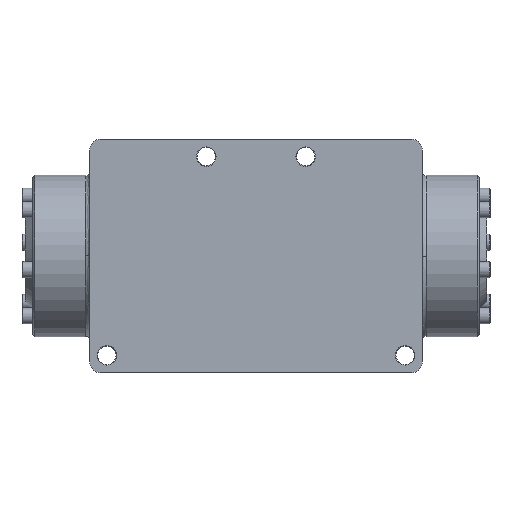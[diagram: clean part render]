
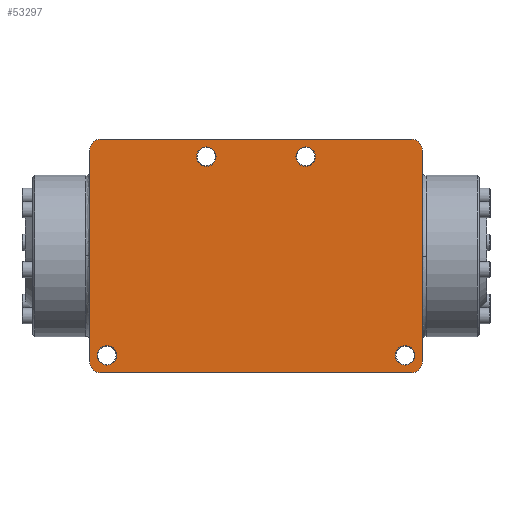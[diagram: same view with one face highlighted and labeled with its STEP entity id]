
A CAD part, front view. The second image highlights one B-rep face of the part: STEP entity #53297.
In plain terms, the highlighted planar face has unit normal (0, -1, 0).
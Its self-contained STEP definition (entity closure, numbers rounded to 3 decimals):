
#2228=FACE_BOUND('',#15693,.T.);
#2229=FACE_BOUND('',#15694,.T.);
#2230=FACE_BOUND('',#15695,.T.);
#2231=FACE_BOUND('',#15696,.T.);
#5134=LINE('',#94408,#8570);
#5135=LINE('',#94412,#8571);
#5136=LINE('',#94416,#8572);
#5137=LINE('',#94419,#8573);
#8570=VECTOR('',#69531,1.);
#8571=VECTOR('',#69534,1.);
#8572=VECTOR('',#69537,1.);
#8573=VECTOR('',#69540,1.);
#12365=FACE_OUTER_BOUND('',#15692,.T.);
#15692=EDGE_LOOP('',(#41442,#41443,#41444,#41445,#41446,#41447,#41448,#41449));
#15693=EDGE_LOOP('',(#41450,#41451));
#15694=EDGE_LOOP('',(#41452,#41453));
#15695=EDGE_LOOP('',(#41454,#41455));
#15696=EDGE_LOOP('',(#41456,#41457));
#18852=CIRCLE('',#58213,0.714);
#18853=CIRCLE('',#58214,0.714);
#18855=CIRCLE('',#58217,0.714);
#18856=CIRCLE('',#58218,0.714);
#18858=CIRCLE('',#58221,0.714);
#18859=CIRCLE('',#58222,0.714);
#18861=CIRCLE('',#58225,0.714);
#18862=CIRCLE('',#58226,0.714);
#18880=CIRCLE('',#58259,0.794);
#18881=CIRCLE('',#58260,0.794);
#18882=CIRCLE('',#58261,0.794);
#18883=CIRCLE('',#58262,0.794);
#22811=VERTEX_POINT('',#94312);
#22812=VERTEX_POINT('',#94313);
#22814=VERTEX_POINT('',#94320);
#22815=VERTEX_POINT('',#94321);
#22817=VERTEX_POINT('',#94328);
#22818=VERTEX_POINT('',#94329);
#22820=VERTEX_POINT('',#94336);
#22821=VERTEX_POINT('',#94337);
#22839=VERTEX_POINT('',#94404);
#22840=VERTEX_POINT('',#94405);
#22841=VERTEX_POINT('',#94407);
#22842=VERTEX_POINT('',#94409);
#22843=VERTEX_POINT('',#94411);
#22844=VERTEX_POINT('',#94413);
#22845=VERTEX_POINT('',#94415);
#22846=VERTEX_POINT('',#94417);
#29359=EDGE_CURVE('',#22811,#22812,#18852,.T.);
#29360=EDGE_CURVE('',#22812,#22811,#18853,.T.);
#29363=EDGE_CURVE('',#22814,#22815,#18855,.T.);
#29364=EDGE_CURVE('',#22815,#22814,#18856,.T.);
#29367=EDGE_CURVE('',#22817,#22818,#18858,.T.);
#29368=EDGE_CURVE('',#22818,#22817,#18859,.T.);
#29371=EDGE_CURVE('',#22820,#22821,#18861,.T.);
#29372=EDGE_CURVE('',#22821,#22820,#18862,.T.);
#29405=EDGE_CURVE('',#22839,#22840,#18880,.T.);
#29406=EDGE_CURVE('',#22840,#22841,#5134,.T.);
#29407=EDGE_CURVE('',#22841,#22842,#18881,.T.);
#29408=EDGE_CURVE('',#22842,#22843,#5135,.T.);
#29409=EDGE_CURVE('',#22843,#22844,#18882,.T.);
#29410=EDGE_CURVE('',#22844,#22845,#5136,.T.);
#29411=EDGE_CURVE('',#22845,#22846,#18883,.T.);
#29412=EDGE_CURVE('',#22846,#22839,#5137,.T.);
#41442=ORIENTED_EDGE('',*,*,#29405,.T.);
#41443=ORIENTED_EDGE('',*,*,#29406,.T.);
#41444=ORIENTED_EDGE('',*,*,#29407,.T.);
#41445=ORIENTED_EDGE('',*,*,#29408,.T.);
#41446=ORIENTED_EDGE('',*,*,#29409,.T.);
#41447=ORIENTED_EDGE('',*,*,#29410,.T.);
#41448=ORIENTED_EDGE('',*,*,#29411,.T.);
#41449=ORIENTED_EDGE('',*,*,#29412,.T.);
#41450=ORIENTED_EDGE('',*,*,#29359,.T.);
#41451=ORIENTED_EDGE('',*,*,#29360,.T.);
#41452=ORIENTED_EDGE('',*,*,#29363,.T.);
#41453=ORIENTED_EDGE('',*,*,#29364,.T.);
#41454=ORIENTED_EDGE('',*,*,#29367,.T.);
#41455=ORIENTED_EDGE('',*,*,#29368,.T.);
#41456=ORIENTED_EDGE('',*,*,#29371,.T.);
#41457=ORIENTED_EDGE('',*,*,#29372,.T.);
#48293=PLANE('',#58258);
#53297=ADVANCED_FACE('',(#12365,#2228,#2229,#2230,#2231),#48293,.T.);
#58213=AXIS2_PLACEMENT_3D('',#94314,#69419,#69420);
#58214=AXIS2_PLACEMENT_3D('',#94315,#69421,#69422);
#58217=AXIS2_PLACEMENT_3D('',#94322,#69428,#69429);
#58218=AXIS2_PLACEMENT_3D('',#94323,#69430,#69431);
#58221=AXIS2_PLACEMENT_3D('',#94330,#69437,#69438);
#58222=AXIS2_PLACEMENT_3D('',#94331,#69439,#69440);
#58225=AXIS2_PLACEMENT_3D('',#94338,#69446,#69447);
#58226=AXIS2_PLACEMENT_3D('',#94339,#69448,#69449);
#58258=AXIS2_PLACEMENT_3D('',#94403,#69527,#69528);
#58259=AXIS2_PLACEMENT_3D('',#94406,#69529,#69530);
#58260=AXIS2_PLACEMENT_3D('',#94410,#69532,#69533);
#58261=AXIS2_PLACEMENT_3D('',#94414,#69535,#69536);
#58262=AXIS2_PLACEMENT_3D('',#94418,#69538,#69539);
#69419=DIRECTION('center_axis',(0.,1.,0.));
#69420=DIRECTION('ref_axis',(1.,0.,0.));
#69421=DIRECTION('center_axis',(0.,1.,0.));
#69422=DIRECTION('ref_axis',(1.,0.,0.));
#69428=DIRECTION('center_axis',(0.,1.,0.));
#69429=DIRECTION('ref_axis',(1.,0.,0.));
#69430=DIRECTION('center_axis',(0.,1.,0.));
#69431=DIRECTION('ref_axis',(1.,0.,0.));
#69437=DIRECTION('center_axis',(0.,1.,0.));
#69438=DIRECTION('ref_axis',(1.,0.,0.));
#69439=DIRECTION('center_axis',(0.,1.,0.));
#69440=DIRECTION('ref_axis',(1.,0.,0.));
#69446=DIRECTION('center_axis',(0.,1.,0.));
#69447=DIRECTION('ref_axis',(1.,0.,0.));
#69448=DIRECTION('center_axis',(0.,1.,0.));
#69449=DIRECTION('ref_axis',(1.,0.,0.));
#69527=DIRECTION('center_axis',(0.,-1.,0.));
#69528=DIRECTION('ref_axis',(1.,0.,0.));
#69529=DIRECTION('center_axis',(0.,-1.,0.));
#69530=DIRECTION('ref_axis',(0.707,0.,-0.707));
#69531=DIRECTION('',(0.,0.,1.));
#69532=DIRECTION('center_axis',(0.,-1.,0.));
#69533=DIRECTION('ref_axis',(0.707,0.,0.707));
#69534=DIRECTION('',(-1.,0.,0.));
#69535=DIRECTION('center_axis',(0.,-1.,0.));
#69536=DIRECTION('ref_axis',(-0.707,0.,0.707));
#69537=DIRECTION('',(0.,0.,-1.));
#69538=DIRECTION('center_axis',(0.,-1.,0.));
#69539=DIRECTION('ref_axis',(-0.707,0.,-0.707));
#69540=DIRECTION('',(1.,0.,0.));
#94312=CARTESIAN_POINT('',(4.364,-6.35,7.303));
#94313=CARTESIAN_POINT('',(2.936,-6.35,7.303));
#94314=CARTESIAN_POINT('Origin',(3.65,-6.35,7.303));
#94315=CARTESIAN_POINT('Origin',(3.65,-6.35,7.303));
#94320=CARTESIAN_POINT('',(-10.238,-6.35,-7.303));
#94321=CARTESIAN_POINT('',(-11.667,-6.35,-7.303));
#94322=CARTESIAN_POINT('Origin',(-10.952,-6.35,-7.303));
#94323=CARTESIAN_POINT('Origin',(-10.952,-6.35,-7.303));
#94328=CARTESIAN_POINT('',(11.667,-6.35,-7.303));
#94329=CARTESIAN_POINT('',(10.238,-6.35,-7.303));
#94330=CARTESIAN_POINT('Origin',(10.952,-6.35,-7.303));
#94331=CARTESIAN_POINT('Origin',(10.952,-6.35,-7.303));
#94336=CARTESIAN_POINT('',(-2.936,-6.35,7.303));
#94337=CARTESIAN_POINT('',(-4.364,-6.35,7.303));
#94338=CARTESIAN_POINT('Origin',(-3.65,-6.35,7.303));
#94339=CARTESIAN_POINT('Origin',(-3.65,-6.35,7.303));
#94403=CARTESIAN_POINT('Origin',(-12.51,-6.35,0.));
#94404=CARTESIAN_POINT('',(11.43,-6.35,-8.572));
#94405=CARTESIAN_POINT('',(12.224,-6.35,-7.779));
#94406=CARTESIAN_POINT('Origin',(11.43,-6.35,-7.779));
#94407=CARTESIAN_POINT('',(12.224,-6.35,7.779));
#94408=CARTESIAN_POINT('',(12.224,-6.35,-4.286));
#94409=CARTESIAN_POINT('',(11.43,-6.35,8.573));
#94410=CARTESIAN_POINT('Origin',(11.43,-6.35,7.779));
#94411=CARTESIAN_POINT('',(-11.43,-6.35,8.573));
#94412=CARTESIAN_POINT('',(-0.143,-6.35,8.573));
#94413=CARTESIAN_POINT('',(-12.224,-6.35,7.779));
#94414=CARTESIAN_POINT('Origin',(-11.43,-6.35,7.779));
#94415=CARTESIAN_POINT('',(-12.224,-6.35,-7.779));
#94416=CARTESIAN_POINT('',(-12.224,-6.35,4.286));
#94417=CARTESIAN_POINT('',(-11.43,-6.35,-8.573));
#94418=CARTESIAN_POINT('Origin',(-11.43,-6.35,-7.779));
#94419=CARTESIAN_POINT('',(-12.367,-6.35,-8.573));
